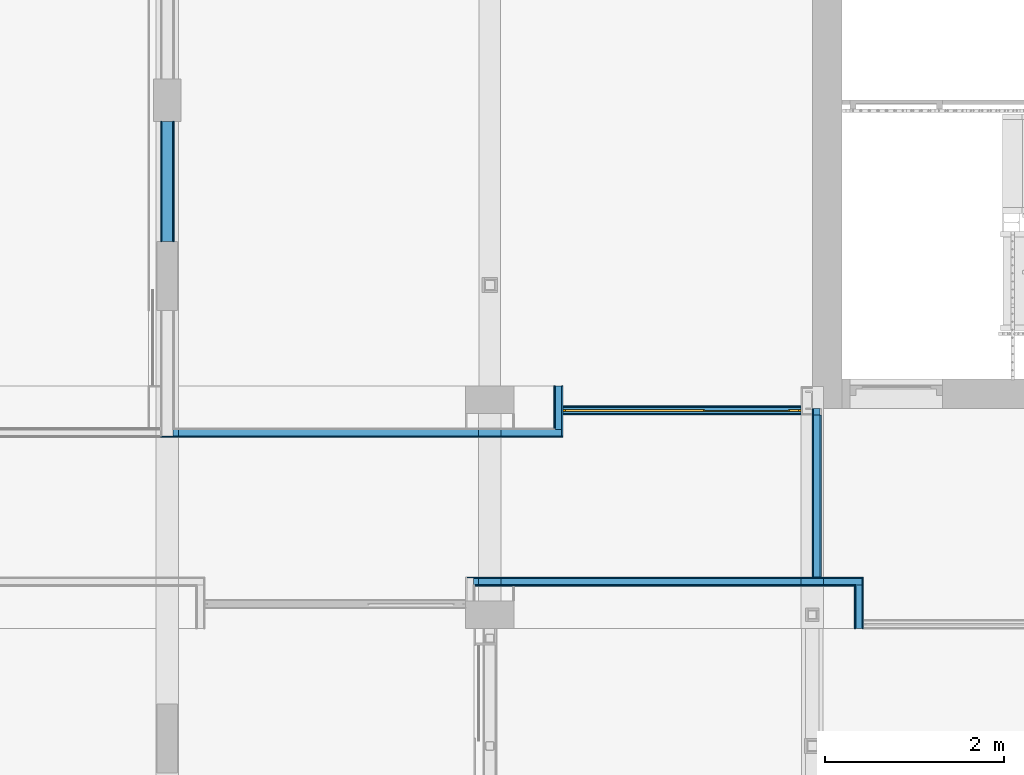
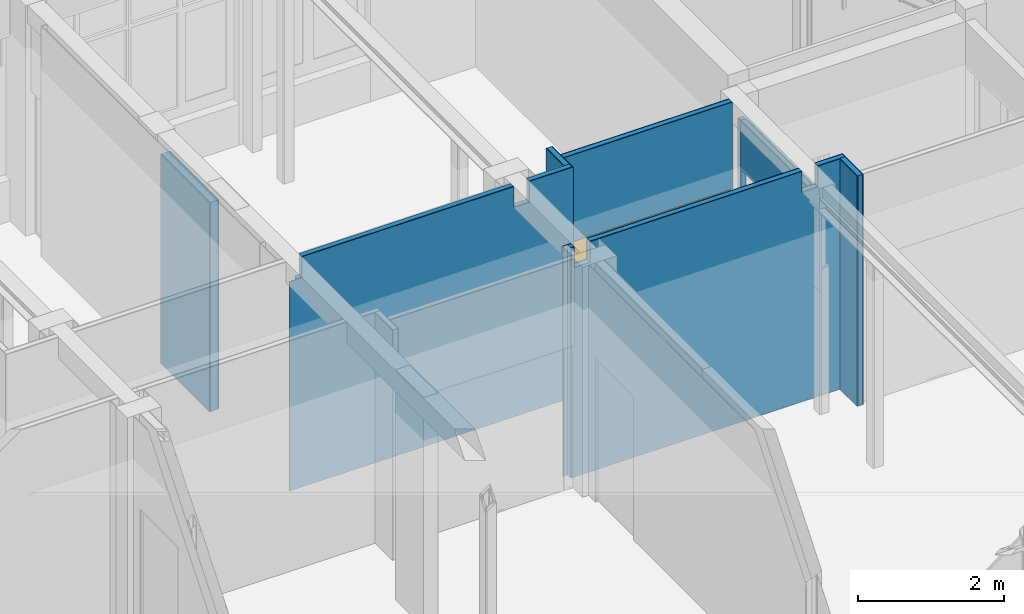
# One storey, part 111 of 135: 22 building element parts, 1 door, 1 opening, 8 elements without a shape of their own.
"""IFC2X3 building model written with IfcOpenShell, lengths in millimetres."""

from ifc_helpers import new_model, entity, si_unit, converted_unit, derived_unit, money_unit, direction, frame, origin_with_axes, place, context, subcontext, project, spatial, open_shell, faceted_brep, surface_model, material, type_object, element, fill, aggregate, save


model = new_model("IFC2X3")

# Units and contexts
model_context = context("Model", 3, precision=0.01, world=origin_with_axes(), true_north=direction((0.0, 1.0)))
body_context = subcontext(model_context, "Body", "Model", "MODEL_VIEW")
ifc_project = project(units=[si_unit("LENGTHUNIT", "METRE", prefix="MILLI"), si_unit("AREAUNIT", "SQUARE_METRE"), si_unit("VOLUMEUNIT", "CUBIC_METRE"), converted_unit("PLANEANGLEUNIT", "DEGREE", entity("IfcPlaneAngleMeasure", 0.0174532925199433), si_unit("PLANEANGLEUNIT", "RADIAN"), dimensions=[0, 0, 0, 0, 0, 0, 0]), money_unit("EUR"), converted_unit("TIMEUNIT", "Year", entity("IfcTimeMeasure", 31557600.0), si_unit("TIMEUNIT", "SECOND"), dimensions=[0, 0, 1, 0, 0, 0, 0]), si_unit("MASSUNIT", "GRAM", prefix="KILO"), si_unit("THERMODYNAMICTEMPERATUREUNIT", "DEGREE_CELSIUS"), si_unit("LUMINOUSINTENSITYUNIT", "LUMEN"), si_unit("ENERGYUNIT", "JOULE", prefix="MEGA"), derived_unit("THERMALCONDUCTANCEUNIT", [(si_unit("POWERUNIT", "WATT"), 1), (si_unit("LENGTHUNIT", "METRE"), -1), (si_unit("THERMODYNAMICTEMPERATUREUNIT", "KELVIN"), -1)]), derived_unit("SPECIFICHEATCAPACITYUNIT", [(si_unit("ENERGYUNIT", "JOULE"), 1), (si_unit("MASSUNIT", "GRAM", prefix="KILO"), -1), (si_unit("THERMODYNAMICTEMPERATUREUNIT", "KELVIN"), -1)]), derived_unit("MASSDENSITYUNIT", [(si_unit("MASSUNIT", "GRAM", prefix="KILO"), 1), (si_unit("VOLUMEUNIT", "CUBIC_METRE"), -1)])], contexts=[model_context])

# Site, building, storey
site_placement = place(None, origin_with_axes())
site = spatial("IfcSite", under=ifc_project, at=site_placement, Name="Site", CompositionType="ELEMENT")
building_placement = place(site_placement, origin_with_axes())
building = spatial("IfcBuilding", under=site, at=building_placement, Name="Naam gebouw", CompositionType="ELEMENT")
storey_placement = place(building_placement, origin_with_axes())
storey = spatial("IfcBuildingStorey", under=building, at=storey_placement, Name="Begane grond N", CompositionType="ELEMENT", Elevation=0.0)

# Door
door_style = type_object("IfcDoorStyle", Name="D1 zl2 27", ConstructionType="NOTDEFINED", OperationType="USERDEFINED", ParameterTakesPrecedence=False, Sizeable=False)
wall_2_placement = place(storey_placement, frame((51215.00000000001, 20305.91242510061, 0.0), z_axis=(0.0, 0.0, 1.0), x_axis=(1.0, 0.0, 0.0)))
opening_placement = place(wall_2_placement, frame((1329.999999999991, 0.0, 0.0), z_axis=(0.0, 0.0, 1.0), x_axis=(1.0, 0.0, 0.0)))
door_placement = place(opening_placement, frame((-1329.999999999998, 0.0, 0.0), z_axis=(0.0, 0.0, 1.0), x_axis=(1.0, 0.0, 0.0)))
door = element("IfcDoor", 1, at=door_placement, inside=storey, type_object=door_style, Name="_Merk-x", ObjectType="DOOR", OverallHeight=2400.0, OverallWidth=2660.0, context=body_context, shape_type="SurfaceModel", body=[
    faceted_brep([(0.0, 9.99999999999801, 0.0), (30.00000000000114, 9.99999999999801, 0.0), (30.00000000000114, -10.00000000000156, 0.0), (0.0, -10.00000000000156, 0.0), (0.0, 9.99999999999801, 2370.0), (30.00000000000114, 9.99999999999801, 2370.0), (30.00000000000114, 9.99999999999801, 30.0), (30.00000000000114, -10.00000000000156, 30.0), (30.00000000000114, -10.00000000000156, 2370.0), (0.0, -10.00000000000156, 2370.0)], [[[0, 1, 2, 3]], [[0, 4, 5, 6, 1]], [[1, 6, 7, 2]], [[3, 2, 7, 8, 9]], [[4, 0, 3, 9]], [[5, 4, 9, 8]], [[6, 5, 8, 7]]]),
    faceted_brep([(1599.999999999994, -9.000000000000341, 0.0), (1599.999999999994, -9.000000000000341, 2370.0), (1599.999999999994, -10.00000000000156, 2370.0), (1599.999999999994, -10.00000000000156, 0.0), (1582.999999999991, -9.000000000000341, 2370.0), (1582.999999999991, -9.000000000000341, 0.0), (1582.999999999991, 9.99999999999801, 2370.0), (1569.999999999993, 9.99999999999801, 2370.0), (1569.999999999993, -10.00000000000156, 2370.0), (1569.999999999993, -10.00000000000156, 0.0), (1569.999999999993, -10.00000000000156, 30.00000000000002), (1569.999999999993, 9.99999999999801, 0.0), (1582.999999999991, 9.99999999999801, 0.0), (1569.999999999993, 9.99999999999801, 30.00000000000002)], [[[0, 1, 2, 3]], [[4, 1, 0, 5]], [[4, 6, 7, 8, 2, 1]], [[9, 3, 2, 8, 10]], [[5, 0, 3, 9, 11, 12]], [[6, 4, 5, 12]], [[6, 12, 11, 13, 7]], [[13, 10, 8, 7]], [[11, 9, 10, 13]]]),
    faceted_brep([(30.00000000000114, 9.99999999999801, 30.0), (30.00000000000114, 9.99999999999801, 0.0), (30.00000000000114, -10.00000000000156, 0.0), (30.00000000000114, -10.00000000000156, 30.0), (1569.999999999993, 9.99999999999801, 30.0), (1569.999999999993, 9.99999999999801, 0.0), (1569.999999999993, -10.00000000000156, 0.0), (1569.999999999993, -10.00000000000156, 30.0)], [[[0, 1, 2, 3]], [[0, 4, 5, 1]], [[1, 5, 6, 2]], [[3, 2, 6, 7]], [[4, 0, 3, 7]], [[5, 4, 7, 6]]]),
    faceted_brep([(2659.999999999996, 9.99999999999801, 0.0), (2659.999999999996, 9.99999999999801, 2370.0), (2659.999999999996, -10.00000000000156, 2370.0), (2659.999999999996, -10.00000000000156, 0.0), (2629.999999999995, 9.99999999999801, 0.0), (2629.999999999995, 9.99999999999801, 30.0), (2629.999999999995, 9.99999999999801, 2370.0), (2629.999999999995, -10.00000000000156, 2370.0), (2629.999999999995, -10.00000000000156, 30.0), (2629.999999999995, -10.00000000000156, 0.0)], [[[0, 1, 2, 3]], [[0, 4, 5, 6, 1]], [[1, 6, 7, 2]], [[3, 2, 7, 8, 9]], [[4, 0, 3, 9]], [[5, 4, 9, 8]], [[6, 5, 8, 7]]]),
    faceted_brep([(2516.999999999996, -9.000000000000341, 2370.0), (2499.999999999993, -9.000000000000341, 2370.0), (2499.999999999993, -10.00000000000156, 2370.0), (2529.999999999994, -10.00000000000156, 2370.0), (2529.999999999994, 9.99999999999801, 2370.0), (2516.999999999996, 9.99999999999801, 2370.0), (2516.999999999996, -9.000000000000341, 0.0), (2499.999999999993, -9.000000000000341, 0.0), (2499.999999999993, -10.00000000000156, 0.0), (2529.999999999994, -10.00000000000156, 0.0), (2529.999999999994, -10.00000000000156, 30.00000000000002), (2529.999999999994, 9.99999999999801, 30.00000000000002), (2516.999999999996, 9.99999999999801, 0.0), (2529.999999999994, 9.99999999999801, 0.0)], [[[0, 1, 2, 3, 4, 5]], [[1, 0, 6, 7]], [[1, 7, 8, 2]], [[8, 9, 10, 3, 2]], [[4, 3, 10, 11]], [[12, 5, 4, 11, 13]], [[0, 5, 12, 6]], [[6, 12, 13, 9, 8, 7]], [[11, 10, 9, 13]]]),
    faceted_brep([(2529.999999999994, 9.99999999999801, 30.0), (2529.999999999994, 9.99999999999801, 0.0), (2529.999999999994, -10.00000000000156, 0.0), (2529.999999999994, -10.00000000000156, 30.0), (2629.999999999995, 9.99999999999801, 30.0), (2629.999999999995, 9.99999999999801, 0.0), (2629.999999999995, -10.00000000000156, 0.0), (2629.999999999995, -10.00000000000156, 30.0)], [[[0, 1, 2, 3]], [[0, 4, 5, 1]], [[1, 5, 6, 2]], [[3, 2, 6, 7]], [[4, 0, 3, 7]], [[5, 4, 7, 6]]]),
    faceted_brep([(1582.999999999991, 9.99999999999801, 2387.0), (1582.999999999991, 9.99999999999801, 2370.0), (1569.999999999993, 9.99999999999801, 2370.0), (30.00000000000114, 9.99999999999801, 2370.0), (0.0, 9.99999999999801, 2370.0), (0.0, 9.99999999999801, 2400.0), (2659.999999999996, 9.99999999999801, 2400.0), (2659.999999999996, 9.99999999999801, 2370.0), (2629.999999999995, 9.99999999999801, 2370.0), (2529.999999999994, 9.99999999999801, 2370.0), (2516.999999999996, 9.99999999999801, 2370.0), (2516.999999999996, 9.99999999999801, 2387.0), (1582.999999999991, -9.000000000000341, 2387.0), (1582.999999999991, -9.000000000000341, 2370.0), (2499.999999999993, -9.000000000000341, 2370.0), (2499.999999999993, -10.00000000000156, 2370.0), (1599.999999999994, -10.00000000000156, 2370.0), (1569.999999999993, -10.00000000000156, 2370.0), (30.00000000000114, -10.00000000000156, 2370.0), (0.0, -10.00000000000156, 2370.0), (0.0, -10.00000000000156, 2400.0), (2659.999999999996, -10.00000000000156, 2400.0), (2659.999999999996, -10.00000000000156, 2370.0), (2629.999999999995, -10.00000000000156, 2370.0), (2516.999999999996, -9.000000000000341, 2370.0), (2529.999999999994, -10.00000000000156, 2370.0), (2516.999999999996, -9.000000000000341, 2387.0)], [[[0, 1, 2, 3, 4, 5, 6, 7, 8, 9, 10, 11]], [[1, 0, 12, 13]], [[13, 14, 15, 16, 17, 2, 1]], [[2, 17, 18, 3]], [[3, 18, 19, 4]], [[4, 19, 20, 5]], [[5, 20, 21, 6]], [[6, 21, 22, 7]], [[7, 22, 23, 8]], [[24, 10, 9, 8, 23, 25, 15, 14]], [[11, 10, 24, 26]], [[0, 11, 26, 12]], [[24, 14, 13, 12, 26]], [[23, 22, 21, 20, 19, 18, 17, 16, 15, 25]]]),
    faceted_brep([(2516.999999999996, 0.9999999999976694, 0.0), (2516.999999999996, -9.000000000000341, 0.0), (1582.999999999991, -9.000000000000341, 0.0), (1582.999999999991, 0.9999999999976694, 0.0), (2516.999999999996, 0.9999999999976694, 2387.0), (2516.999999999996, -9.000000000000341, 2387.0), (1582.999999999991, -9.000000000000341, 2387.0), (1582.999999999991, 0.9999999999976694, 2387.0)], [[[0, 1, 2, 3]], [[4, 5, 1, 0]], [[1, 5, 6, 2]], [[3, 2, 6, 7]], [[0, 3, 7, 4]], [[7, 6, 5, 4]]]),
    surface_model("IfcShellBasedSurfaceModel", [(30.00000000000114, 8.999999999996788, 30.0), (30.00000000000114, 8.999999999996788, 2370.0), (1569.999999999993, 8.999999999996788, 2370.0), (1569.999999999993, 8.999999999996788, 30.0)], [open_shell([[[0, 1, 2, 3]]])]),
    surface_model("IfcShellBasedSurfaceModel", [(30.00000000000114, 0.9999999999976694, 30.0), (1569.999999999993, 0.9999999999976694, 30.0), (1569.999999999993, 0.9999999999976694, 2370.0), (30.00000000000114, 0.9999999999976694, 2370.0)], [open_shell([[[0, 1, 2, 3]]])]),
    surface_model("IfcShellBasedSurfaceModel", [(2529.999999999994, 8.999999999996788, 30.0), (2529.999999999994, 8.999999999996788, 2370.0), (2629.999999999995, 8.999999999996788, 2370.0), (2629.999999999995, 8.999999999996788, 30.0)], [open_shell([[[0, 1, 2, 3]]])]),
    surface_model("IfcShellBasedSurfaceModel", [(2529.999999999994, 0.9999999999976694, 30.0), (2629.999999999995, 0.9999999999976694, 30.0), (2629.999999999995, 0.9999999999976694, 2370.0), (2529.999999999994, 0.9999999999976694, 2370.0)], [open_shell([[[0, 1, 2, 3]]])]),
])

# Wall, building element parts
wall_type_1 = type_object("IfcWallType", Name="Metalstud iso 100 100", PredefinedType="NOTDEFINED")
wall_1_placement = place(storey_placement, frame((51115.00000000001, 20580.91242510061, 0.0), z_axis=(0.0, 0.0, 1.0), x_axis=(0.0, -1.0, 0.0)))
wall_1 = element("IfcWall", 2, at=wall_1_placement, inside=storey, type_object=wall_type_1, Name="_Wand-x")
ifc_material_1 = material(Name="Gipsplaat")
building_element_part_1_placement = place(wall_1_placement, origin_with_axes())
building_element_part_1 = element("IfcBuildingElementPart", 3, at=building_element_part_1_placement, material=ifc_material_1, Name="Gipsplaat", context=body_context, shape_type="Brep", body=[
    faceted_brep([(0.0, 87.49999999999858, 3850.0), (0.0, 100.0000000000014, 3850.0), (0.0, 100.0000000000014, 0.0), (0.0, 87.49999999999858, 0.0), (562.499999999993, 100.0000000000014, 3850.0), (562.499999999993, 87.49999999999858, 3850.0), (562.499999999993, 100.0000000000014, 0.0), (562.499999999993, 87.49999999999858, 0.0)], [[[0, 1, 2, 3]], [[4, 1, 0, 5]], [[1, 4, 6, 2]], [[6, 7, 3, 2]], [[5, 0, 3, 7]], [[4, 5, 7, 6]]]),
])
ifc_material_2 = material(Name="Isolatie - Steenwol LSW")
building_element_part_2_placement = place(wall_1_placement, origin_with_axes())
building_element_part_2 = element("IfcBuildingElementPart", 4, at=building_element_part_2_placement, material=ifc_material_2, Name="Isolatie - Steenwol LSW", context=body_context, shape_type="Brep", body=[
    faceted_brep([(0.0, 12.50000000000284, 3850.0), (0.0, 87.49999999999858, 3850.0), (0.0, 87.49999999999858, 0.0), (0.0, 12.50000000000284, 0.0), (487.4999999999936, 87.49999999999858, 3850.0), (487.4999999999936, 12.50000000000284, 3850.0), (487.4999999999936, 87.49999999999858, 0.0), (487.4999999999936, 12.50000000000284, 0.0)], [[[0, 1, 2, 3]], [[4, 1, 0, 5]], [[1, 4, 6, 2]], [[6, 7, 3, 2]], [[5, 0, 3, 7]], [[4, 5, 7, 6]]]),
])
building_element_part_3_placement = place(wall_1_placement, origin_with_axes())
building_element_part_3 = element("IfcBuildingElementPart", 5, at=building_element_part_3_placement, material=ifc_material_1, Name="Gipsplaat", context=body_context, shape_type="Brep", body=[
    faceted_brep([(0.0, 0.0, 3850.0), (0.0, 12.50000000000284, 3850.0), (0.0, 12.50000000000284, 0.0), (0.0, 0.0, 0.0), (474.9999999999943, 12.50000000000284, 3850.0), (474.9999999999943, 0.0, 3850.0), (474.9999999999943, 12.50000000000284, 0.0), (474.9999999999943, 0.0, 0.0)], [[[0, 1, 2, 3]], [[4, 1, 0, 5]], [[1, 4, 6, 2]], [[6, 7, 3, 2]], [[5, 0, 3, 7]], [[4, 5, 7, 6]]]),
])
aggregate(wall_1, [building_element_part_1, building_element_part_2, building_element_part_3])

# Wall, opening
wall_2 = element("IfcWall", 6, at=wall_2_placement, inside=storey, type_object=wall_type_1, Name="_Wand-x")
opening = element("IfcOpeningElement", 7, at=opening_placement, cuts=wall_2, Name="_Merk-x", context=body_context, shape_type="Brep", body=[
    faceted_brep([(-1329.999999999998, 9.99999999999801, 0.0), (-1329.999999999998, 9.99999999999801, 2400.0), (-1329.999999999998, 51.00000000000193, 2400.0), (-1329.999999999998, 51.00000000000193, 0.0), (-1329.999999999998, -51.00000000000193, 0.0), (-1329.999999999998, -51.00000000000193, 2400.0), (1329.999999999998, 9.99999999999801, 2400.0), (1329.999999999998, 51.00000000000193, 2400.0), (1329.999999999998, -51.00000000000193, 2400.0), (1329.999999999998, 51.00000000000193, 0.0), (1329.999999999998, 9.99999999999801, 0.0), (1329.999999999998, -51.00000000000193, 0.0)], [[[0, 1, 2, 3]], [[1, 0, 4, 5]], [[6, 7, 2, 1, 5, 8]], [[7, 9, 3, 2]], [[0, 3, 9, 10, 11, 4]], [[5, 4, 11, 8]], [[6, 10, 9, 7]], [[10, 6, 8, 11]]]),
])

fill(opening, door)

# Building element part
building_element_part_4_placement = place(wall_2_placement, origin_with_axes())
building_element_part_4 = element("IfcBuildingElementPart", 8, at=building_element_part_4_placement, material=ifc_material_2, Name="Isolatie - Steenwol LSW", context=body_context, shape_type="Brep", body=[
    faceted_brep([(2659.99999999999, -37.49999999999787, 2400.0), (2659.99999999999, 9.99999999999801, 2400.0), (2659.99999999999, 37.50000000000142, 2400.0), (2659.99999999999, 37.50000000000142, 3850.0), (2659.99999999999, -37.49999999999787, 3850.0), (0.0, -37.50000000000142, 2400.0), (0.0, 9.99999999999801, 2400.0), (0.0, 37.50000000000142, 2400.0), (0.0, 37.50000000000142, 3850.0), (0.0, -37.50000000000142, 3850.0)], [[[0, 1, 2, 3, 4]], [[1, 0, 5, 6, 7, 2]], [[7, 8, 3, 2]], [[8, 9, 4, 3]], [[5, 0, 4, 9]], [[6, 5, 9, 8, 7]]]),
])

building_element_part_5_placement = place(wall_2_placement, origin_with_axes())
building_element_part_5 = element("IfcBuildingElementPart", 9, at=building_element_part_5_placement, material=ifc_material_1, Name="Gipsplaat", context=body_context, shape_type="Brep", body=[
    faceted_brep([(2659.99999999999, -50.00000000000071, 2400.0), (2659.99999999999, -37.49999999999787, 2400.0), (2659.99999999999, -37.49999999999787, 3850.0), (2659.99999999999, -50.00000000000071, 3850.0), (0.0, -37.50000000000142, 2400.0), (0.0, -50.00000000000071, 2400.0), (0.0, -37.50000000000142, 3850.0), (0.0, -50.00000000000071, 3850.0)], [[[0, 1, 2, 3]], [[4, 1, 0, 5]], [[1, 4, 6, 2]], [[2, 6, 7, 3]], [[5, 0, 3, 7]], [[4, 5, 7, 6]]]),
])

building_element_part_6_placement = place(wall_2_placement, origin_with_axes())
building_element_part_6 = element("IfcBuildingElementPart", 10, at=building_element_part_6_placement, material=ifc_material_1, Name="Gipsplaat", context=body_context, shape_type="Brep", body=[
    faceted_brep([(2659.99999999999, 37.50000000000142, 2400.0), (2659.99999999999, 50.00000000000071, 2400.0), (2659.99999999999, 50.00000000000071, 3850.0), (2659.99999999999, 37.50000000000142, 3850.0), (0.0, 50.00000000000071, 2400.0), (0.0, 37.50000000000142, 2400.0), (0.0, 50.00000000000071, 3850.0), (0.0, 37.50000000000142, 3850.0)], [[[0, 1, 2, 3]], [[4, 1, 0, 5]], [[1, 4, 6, 2]], [[2, 6, 7, 3]], [[5, 0, 3, 7]], [[4, 5, 7, 6]]]),
])

aggregate(wall_2, [building_element_part_4, building_element_part_5, building_element_part_6])

# Wall, building element parts
wall_3_placement = place(storey_placement, frame((46800.00000000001, 20105.91242510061, 0.0), z_axis=(0.0, 0.0, 1.0), x_axis=(1.0, 0.0, 0.0)))
wall_3 = element("IfcWall", 11, at=wall_3_placement, inside=storey, type_object=wall_type_1, Name="_Wand-x")
building_element_part_7_placement = place(wall_3_placement, origin_with_axes())
building_element_part_7 = element("IfcBuildingElementPart", 12, at=building_element_part_7_placement, material=ifc_material_2, Name="Isolatie - Steenwol LSW", context=body_context, shape_type="Brep", body=[
    faceted_brep([(3474.999999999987, -12.49999999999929, 3499.999996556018), (3724.999999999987, -12.49999999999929, 3499.999996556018), (3724.999999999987, -12.49999999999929, 3850.0), (4402.500000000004, -12.49999999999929, 3850.0), (4402.500000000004, -12.49999999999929, 0.0), (62.5, -12.49999999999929, 0.0), (62.5, -12.49999999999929, 3500.0), (124.9999999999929, -12.49999999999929, 3500.0), (124.9999999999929, -12.49999999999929, 3850.000195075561), (3474.999999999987, -12.49999999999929, 3850.0), (3474.999999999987, -87.49999999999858, 3499.999996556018), (3724.999999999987, -87.49999999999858, 3499.999996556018), (3724.999999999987, -87.49999999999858, 3850.0), (4402.500000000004, -87.49999999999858, 3850.0), (4402.500000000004, -87.49999999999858, 0.0), (62.5, -87.49999999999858, 0.0), (62.5, -87.49999999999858, 3500.0), (124.9999999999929, -87.49999999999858, 3500.0), (124.9999999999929, -87.49999999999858, 3850.000195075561), (3474.999999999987, -87.49999999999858, 3850.0)], [[[0, 1, 2, 3, 4, 5, 6, 7, 8, 9]], [[1, 0, 10, 11]], [[12, 2, 1, 11]], [[2, 12, 13, 3]], [[4, 3, 13, 14]], [[5, 4, 14, 15]], [[16, 6, 5, 15]], [[7, 6, 16, 17]], [[18, 8, 7, 17]], [[19, 9, 8, 18]], [[0, 9, 19, 10]], [[10, 19, 18, 17, 16, 15, 14, 13, 12, 11]]]),
])
building_element_part_8_placement = place(wall_3_placement, origin_with_axes())
building_element_part_8 = element("IfcBuildingElementPart", 13, at=building_element_part_8_placement, material=ifc_material_1, Name="Gipsplaat", context=body_context, shape_type="Brep", body=[
    faceted_brep([(3474.999999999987, -87.49999999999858, 3499.999996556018), (3724.999999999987, -87.49999999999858, 3499.999996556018), (3724.999999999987, -87.49999999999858, 3850.0), (4415.000000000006, -87.49999999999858, 3850.0), (4415.000000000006, -87.49999999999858, 0.0), (-75.00000000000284, -87.49999999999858, 0.0), (-75.00000000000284, -87.49999999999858, 3500.0), (124.9999999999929, -87.49999999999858, 3500.0), (124.9999999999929, -87.49999999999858, 3850.000195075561), (3474.999999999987, -87.49999999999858, 3850.0), (3474.999999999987, -99.99999999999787, 3499.999996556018), (3724.999999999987, -99.99999999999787, 3499.999996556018), (3724.999999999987, -99.99999999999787, 3850.0), (4415.000000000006, -99.99999999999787, 3850.0), (4415.000000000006, -100.0000000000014, 0.0), (-75.00000000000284, -100.0000000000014, 0.0), (-75.00000000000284, -100.0000000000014, 3500.0), (124.9999999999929, -99.99999999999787, 3500.0), (124.9999999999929, -100.0000000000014, 3850.000195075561), (3474.999999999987, -99.99999999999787, 3850.0)], [[[0, 1, 2, 3, 4, 5, 6, 7, 8, 9]], [[1, 0, 10, 11]], [[12, 2, 1, 11]], [[2, 12, 13, 3]], [[4, 3, 13, 14]], [[5, 4, 14, 15]], [[16, 6, 5, 15]], [[7, 6, 16, 17]], [[18, 8, 7, 17]], [[19, 9, 8, 18]], [[0, 9, 19, 10]], [[10, 19, 18, 17, 16, 15, 14, 13, 12, 11]]]),
])
aggregate(wall_3, [building_element_part_7, building_element_part_8])

wall_4_placement = place(storey_placement, frame((54100.0, 20255.91242510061, 0.0), z_axis=(0.0, 0.0, 1.0), x_axis=(0.0, 1.0, 0.0)))
wall_4 = element("IfcWall", 14, at=wall_4_placement, inside=storey, type_object=wall_type_1, Name="_Wand-x")
building_element_part_9_placement = place(wall_4_placement, origin_with_axes())
building_element_part_9 = element("IfcBuildingElementPart", 15, at=building_element_part_9_placement, material=ifc_material_1, Name="Gipsplaat", context=body_context, shape_type="Brep", body=[
    faceted_brep([(69.99999999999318, 100.0000000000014, 3499.999993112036), (69.99999999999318, 87.49999999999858, 3499.999993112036), (69.99999999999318, 87.49999999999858, 0.0), (69.99999999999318, 100.0000000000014, 0.0), (0.0, 87.49999999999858, 3499.999993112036), (0.0, 99.99999870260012, 3499.999993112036), (0.0, 87.49999999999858, 0.0), (0.0, 100.0000000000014, 0.0), (0.0, 99.99999870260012, 2690.0)], [[[0, 1, 2, 3]], [[4, 1, 0, 5]], [[1, 4, 6, 2]], [[7, 3, 2, 6]], [[5, 0, 3, 7, 8]], [[4, 5, 8, 7, 6]]]),
])
building_element_part_10_placement = place(wall_4_placement, origin_with_axes())
building_element_part_10 = element("IfcBuildingElementPart", 16, at=building_element_part_10_placement, material=ifc_material_2, Name="Isolatie - Steenwol LSW", context=body_context, shape_type="Brep", body=[
    faceted_brep([(69.99999999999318, 87.49999999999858, 3499.999993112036), (69.99999999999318, 12.50000000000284, 3499.999993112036), (69.99999999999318, 12.50000000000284, 0.0), (69.99999999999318, 87.49999999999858, 0.0), (0.0, 12.50000000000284, 3499.999993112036), (0.0, 87.49999999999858, 3499.999993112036), (0.0, 12.50000000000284, 0.0), (0.0, 87.49999999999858, 0.0)], [[[0, 1, 2, 3]], [[4, 1, 0, 5]], [[1, 4, 6, 2]], [[3, 2, 6, 7]], [[5, 0, 3, 7]], [[4, 5, 7, 6]]]),
])
aggregate(wall_4, [building_element_part_9, building_element_part_10])

wall_5_placement = place(storey_placement, frame((54469.99999999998, 17870.91242510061, 0.0), z_axis=(0.0, 0.0, 1.0), x_axis=(0.0, 1.0, 0.0)))
wall_5 = element("IfcWall", 17, at=wall_5_placement, inside=storey, type_object=wall_type_1, Name="_Wand-x")
building_element_part_11_placement = place(wall_5_placement, origin_with_axes())
building_element_part_11 = element("IfcBuildingElementPart", 18, at=building_element_part_11_placement, material=ifc_material_1, Name="Gipsplaat", context=body_context, shape_type="Brep", body=[
    faceted_brep([(474.9999999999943, 0.0, 3850.0), (474.9999999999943, -12.50000000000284, 3850.0), (474.9999999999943, -12.50000000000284, 0.0), (474.9999999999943, 0.0, 0.0), (0.0, -12.50000000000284, 3850.0), (0.0, 0.0, 3850.0), (0.0, -12.50000000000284, 0.0), (0.0, 0.0, 0.0)], [[[0, 1, 2, 3]], [[4, 1, 0, 5]], [[1, 4, 6, 2]], [[3, 2, 6, 7]], [[5, 0, 3, 7]], [[4, 5, 7, 6]]]),
])
building_element_part_12_placement = place(wall_5_placement, origin_with_axes())
building_element_part_12 = element("IfcBuildingElementPart", 19, at=building_element_part_12_placement, material=ifc_material_2, Name="Isolatie - Steenwol LSW", context=body_context, shape_type="Brep", body=[
    faceted_brep([(487.4999999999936, -12.50000000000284, 3850.0), (487.4999999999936, -87.49999999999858, 3850.0), (487.4999999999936, -87.49999999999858, 0.0), (487.4999999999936, -12.50000000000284, 0.0), (0.0, -87.49999999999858, 3850.0), (0.0, -12.50000000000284, 3850.0), (0.0, -87.49999999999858, 0.0), (0.0, -12.50000000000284, 0.0)], [[[0, 1, 2, 3]], [[4, 1, 0, 5]], [[1, 4, 6, 2]], [[3, 2, 6, 7]], [[5, 0, 3, 7]], [[4, 5, 7, 6]]]),
])

wall_6_placement = place(storey_placement, frame((50229.99999999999, 18345.9124251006, 0.0), z_axis=(0.0, 0.0, 1.0), x_axis=(1.0, 0.0, 0.0)))
wall_6 = element("IfcWall", 20, at=wall_6_placement, inside=storey, type_object=wall_type_1, Name="_Wand-x")
building_element_part_13_placement = place(wall_6_placement, origin_with_axes())
building_element_part_13 = element("IfcBuildingElementPart", 21, at=building_element_part_13_placement, material=ifc_material_2, Name="Isolatie - Steenwol LSW", context=body_context, shape_type="Brep", body=[
    faceted_brep([(3645.00000000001, 87.49999999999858, 3499.999993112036), (3895.00000000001, 87.49999999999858, 3499.999993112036), (3895.00000000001, 87.50000000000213, 3850.0), (4327.499999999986, 87.50000000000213, 3850.0), (4327.499999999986, 87.49999999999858, 0.0), (-12.50000000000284, 87.49999999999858, 0.0), (-12.50000000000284, 87.49999999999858, 3850.0), (45.00000000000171, 87.49999999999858, 3850.0), (45.00000000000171, 87.49999999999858, 3499.999996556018), (295.0000000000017, 87.49999999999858, 3499.999996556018), (295.0000000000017, 87.49999999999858, 3850.0), (3645.00000000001, 87.50000000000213, 3850.0), (3645.00000000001, 12.49999999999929, 3499.999993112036), (3895.00000000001, 12.49999999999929, 3499.999993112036), (3895.00000000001, 12.49999999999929, 3850.0), (4327.499999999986, 12.49999999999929, 3850.0), (4327.499999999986, 12.49999999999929, 0.0), (-12.50000000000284, 12.49999999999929, 0.0), (-12.50000000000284, 12.49999999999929, 3850.0), (45.00000000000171, 12.49999999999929, 3850.0), (45.00000000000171, 12.49999999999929, 3499.999996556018), (295.0000000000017, 12.49999999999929, 3499.999996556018), (295.0000000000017, 12.49999999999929, 3850.0), (3645.00000000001, 12.49999999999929, 3850.0)], [[[0, 1, 2, 3, 4, 5, 6, 7, 8, 9, 10, 11]], [[1, 0, 12, 13]], [[14, 2, 1, 13]], [[2, 14, 15, 3]], [[4, 3, 15, 16]], [[5, 4, 16, 17]], [[17, 18, 6, 5]], [[19, 7, 6, 18]], [[8, 7, 19, 20]], [[9, 8, 20, 21]], [[22, 10, 9, 21]], [[23, 11, 10, 22]], [[0, 11, 23, 12]], [[12, 23, 22, 21, 20, 19, 18, 17, 16, 15, 14, 13]]]),
])
building_element_part_14_placement = place(wall_6_placement, origin_with_axes())
building_element_part_14 = element("IfcBuildingElementPart", 22, at=building_element_part_14_placement, material=ifc_material_1, Name="Gipsplaat", context=body_context, shape_type="Brep", body=[
    faceted_brep([(3645.00000000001, 12.49999999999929, 3499.999993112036), (3895.00000000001, 12.49999999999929, 3499.999993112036), (3895.00000000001, 12.49999999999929, 3850.0), (4252.499999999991, 12.49999999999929, 3850.0), (4252.499999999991, 12.49999999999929, 0.0), (0.0, 12.49999999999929, 0.0), (0.0, 12.49999999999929, 3850.0), (45.00000000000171, 12.49999999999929, 3850.0), (45.00000000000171, 12.49999999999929, 3499.999996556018), (295.0000000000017, 12.49999999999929, 3499.999996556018), (295.0000000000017, 12.49999999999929, 3850.0), (3645.00000000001, 12.49999999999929, 3850.0), (3645.00000000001, 0.0, 3499.999993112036), (3895.00000000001, 0.0, 3499.999993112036), (3895.00000000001, 0.0, 3850.0), (4252.499999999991, 0.0, 3850.0), (4252.499999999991, 0.0, 0.0), (0.0, 0.0, 0.0), (0.0, 0.0, 3850.0), (45.00000000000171, 0.0, 3850.0), (45.00000000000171, 0.0, 3499.999996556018), (295.0000000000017, 0.0, 3499.999996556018), (295.0000000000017, 0.0, 3850.0), (3645.00000000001, 0.0, 3850.0)], [[[0, 1, 2, 3, 4, 5, 6, 7, 8, 9, 10, 11]], [[1, 0, 12, 13]], [[14, 2, 1, 13]], [[2, 14, 15, 3]], [[4, 3, 15, 16]], [[5, 4, 16, 17]], [[17, 18, 6, 5]], [[19, 7, 6, 18]], [[8, 7, 19, 20]], [[9, 8, 20, 21]], [[22, 10, 9, 21]], [[23, 11, 10, 22]], [[0, 11, 23, 12]], [[12, 23, 22, 21, 20, 19, 18, 17, 16, 15, 14, 13]]]),
])

# Building element part
building_element_part_15_placement = place(wall_5_placement, origin_with_axes())
building_element_part_15 = element("IfcBuildingElementPart", 23, at=building_element_part_15_placement, material=ifc_material_1, Name="Gipsplaat", context=body_context, shape_type="Brep", body=[
    faceted_brep([(562.499999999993, -87.49999999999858, 3850.0), (562.499999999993, -100.0000000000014, 3850.0), (562.499999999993, -100.0000000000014, 0.0), (562.499999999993, -87.49999999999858, 0.0), (0.0, -100.0000000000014, 3850.0), (0.0, -87.49999999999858, 3850.0), (0.0, -100.0000000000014, 0.0), (0.0, -87.49999999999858, 0.0)], [[[0, 1, 2, 3]], [[4, 1, 0, 5]], [[1, 4, 6, 2]], [[3, 2, 6, 7]], [[5, 0, 3, 7]], [[4, 5, 7, 6]]]),
])

aggregate(wall_5, [building_element_part_11, building_element_part_12, building_element_part_15])

building_element_part_16_placement = place(wall_6_placement, origin_with_axes())
building_element_part_16 = element("IfcBuildingElementPart", 24, at=building_element_part_16_placement, material=ifc_material_1, Name="Gipsplaat", context=body_context, shape_type="Brep", body=[
    faceted_brep([(3645.00000000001, 100.0000000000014, 3499.999993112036), (3895.00000000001, 100.0000000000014, 3499.999993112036), (3895.00000000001, 100.0000000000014, 3850.0), (4339.999999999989, 100.0000000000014, 3850.0), (4339.999999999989, 100.0000000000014, 0.0), (-87.49999999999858, 100.0000000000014, 0.0), (-87.49999999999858, 100.0000000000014, 3850.0), (45.00000000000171, 100.0000000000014, 3850.0), (45.00000000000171, 100.0000000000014, 3499.999996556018), (295.0000000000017, 100.0000000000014, 3499.999996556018), (295.0000000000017, 100.0000000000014, 3850.0), (3645.00000000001, 100.0000000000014, 3850.0), (3645.00000000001, 87.50000000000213, 3499.999993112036), (3895.00000000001, 87.50000000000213, 3499.999993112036), (3895.00000000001, 87.50000000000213, 3850.0), (4339.999999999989, 87.50000000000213, 3850.0), (4339.999999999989, 87.49999999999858, 0.0), (-87.49999999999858, 87.49999999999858, 0.0), (-87.49999999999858, 87.49999999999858, 3850.0), (45.00000000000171, 87.49999999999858, 3850.0), (45.00000000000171, 87.50000000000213, 3499.999996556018), (295.0000000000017, 87.50000000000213, 3499.999996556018), (295.0000000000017, 87.49999999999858, 3850.0), (3645.00000000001, 87.50000000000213, 3850.0)], [[[0, 1, 2, 3, 4, 5, 6, 7, 8, 9, 10, 11]], [[1, 0, 12, 13]], [[14, 2, 1, 13]], [[2, 14, 15, 3]], [[4, 3, 15, 16]], [[5, 4, 16, 17]], [[17, 18, 6, 5]], [[19, 7, 6, 18]], [[8, 7, 19, 20]], [[9, 8, 20, 21]], [[22, 10, 9, 21]], [[23, 11, 10, 22]], [[0, 11, 23, 12]], [[12, 23, 22, 21, 20, 19, 18, 17, 16, 15, 14, 13]]]),
])

aggregate(wall_6, [building_element_part_13, building_element_part_14, building_element_part_16])

# Wall, building element parts
wall_7_placement = place(storey_placement, frame((54100.0, 18345.9124251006, 2690.0), z_axis=(0.0, 0.0, 1.0), x_axis=(0.0, 1.0, 0.0)))
wall_7 = element("IfcWall", 25, at=wall_7_placement, inside=storey, type_object=wall_type_1, Name="_Wand-x")
building_element_part_17_placement = place(wall_7_placement, origin_with_axes())
building_element_part_17 = element("IfcBuildingElementPart", 26, at=building_element_part_17_placement, material=ifc_material_2, Name="Isolatie - Steenwol LSW", context=body_context, shape_type="Brep", body=[
    faceted_brep([(100.0000000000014, 12.50000000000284, 809.9999931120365), (1910.000000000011, 12.50000000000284, 809.9999931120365), (1910.000000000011, 87.49999999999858, 809.9999931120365), (100.0000000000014, 87.49999999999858, 809.9999931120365), (100.0000000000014, 12.50000000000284, 0.0), (1910.000000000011, 12.50000000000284, 0.0), (1910.000000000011, 87.49999999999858, 0.0), (100.0000000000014, 87.49999999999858, 0.0)], [[[0, 1, 2, 3]], [[4, 5, 1, 0]], [[2, 1, 5, 6]], [[3, 2, 6, 7]], [[3, 7, 4, 0]], [[7, 6, 5, 4]]]),
])
building_element_part_18_placement = place(wall_7_placement, origin_with_axes())
building_element_part_18 = element("IfcBuildingElementPart", 27, at=building_element_part_18_placement, material=ifc_material_1, Name="Gipsplaat", context=body_context, shape_type="Brep", body=[
    faceted_brep([(100.0000000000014, 100.0000000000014, 809.9999931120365), (100.0000000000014, 87.49999999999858, 809.9999931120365), (1910.000000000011, 87.49999999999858, 809.9999931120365), (1910.000000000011, 100.0000000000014, 809.9999931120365), (100.0000000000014, 100.0000000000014, 0.0), (100.0000000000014, 87.49999999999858, 0.0), (1910.000000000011, 87.49999999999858, 0.0), (1910.000000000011, 100.0000000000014, 0.0)], [[[0, 1, 2, 3]], [[1, 0, 4, 5]], [[1, 5, 6, 2]], [[7, 3, 2, 6]], [[4, 0, 3, 7]], [[5, 4, 7, 6]]]),
])
building_element_part_19_placement = place(wall_7_placement, origin_with_axes())
building_element_part_19 = element("IfcBuildingElementPart", 28, at=building_element_part_19_placement, material=ifc_material_1, Name="Gipsplaat", context=body_context, shape_type="Brep", body=[
    faceted_brep([(100.0000000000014, 0.0, 809.9999931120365), (1910.000000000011, 0.0, 809.9999931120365), (1910.000000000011, 12.50000000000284, 809.9999931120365), (100.0000000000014, 12.50000000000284, 809.9999931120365), (100.0000000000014, 0.0, 0.0), (1910.000000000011, 0.0, 0.0), (1910.000000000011, 12.50000000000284, 0.0), (100.0000000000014, 12.50000000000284, 0.0)], [[[0, 1, 2, 3]], [[4, 5, 1, 0]], [[2, 1, 5, 6]], [[3, 2, 6, 7]], [[3, 7, 4, 0]], [[7, 6, 5, 4]]]),
])
aggregate(wall_7, [building_element_part_17, building_element_part_18, building_element_part_19])

wall_type_2 = type_object("IfcWallType", Name="Metalstud iso 150 150", PredefinedType="NOTDEFINED")
wall_8_placement = place(storey_placement, frame((46800.00000000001, 23531.9744572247, 0.0), z_axis=(0.0, 0.0, 1.0), x_axis=(0.0, -1.0, 0.0)))
wall_8 = element("IfcWall", 29, at=wall_8_placement, inside=storey, type_object=wall_type_2, Name="_Wand-x")
building_element_part_20_placement = place(wall_8_placement, origin_with_axes())
building_element_part_20 = element("IfcBuildingElementPart", 30, at=building_element_part_20_placement, material=ifc_material_2, Name="Isolatie - Steenwol LSW", context=body_context, shape_type="Brep", body=[
    faceted_brep([(0.0, -62.5, 0.0), (0.0, -62.5, 3500.0), (0.0, 62.5, 3500.0), (0.0, 62.5, 0.0), (1341.062032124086, -62.5, 0.0), (1341.062032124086, -62.5, 3500.0), (1341.062032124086, 62.5, 3500.0), (1341.062032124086, 62.5, 0.0)], [[[0, 1, 2, 3]], [[4, 5, 1, 0]], [[5, 6, 2, 1]], [[3, 2, 6, 7]], [[4, 0, 3, 7]], [[7, 6, 5, 4]]]),
])
building_element_part_21_placement = place(wall_8_placement, origin_with_axes())
building_element_part_21 = element("IfcBuildingElementPart", 31, at=building_element_part_21_placement, material=ifc_material_1, Name="Gipsplaat", context=body_context, shape_type="Brep", body=[
    faceted_brep([(0.0, 62.5, 0.0), (0.0, 62.5, 3500.0), (0.0, 75.00000000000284, 3500.0), (0.0, 75.00000000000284, 0.0), (1341.062032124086, 62.5, 0.0), (1341.062032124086, 62.5, 3500.0), (1341.062032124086, 75.00000000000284, 3500.0), (1341.062032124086, 75.00000000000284, 0.0)], [[[0, 1, 2, 3]], [[4, 5, 1, 0]], [[5, 6, 2, 1]], [[3, 2, 6, 7]], [[4, 0, 3, 7]], [[7, 6, 5, 4]]]),
])
building_element_part_22_placement = place(wall_8_placement, origin_with_axes())
building_element_part_22 = element("IfcBuildingElementPart", 32, at=building_element_part_22_placement, material=ifc_material_1, Name="Gipsplaat", context=body_context, shape_type="Brep", body=[
    faceted_brep([(0.0, -75.00000000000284, 0.0), (0.0, -75.00000000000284, 3500.0), (0.0, -62.5, 3500.0), (0.0, -62.5, 0.0), (1341.062032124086, -75.00000000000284, 0.0), (1341.062032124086, -75.00000000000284, 3500.0), (1341.062032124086, -62.5, 3500.0), (1341.062032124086, -62.5, 0.0)], [[[0, 1, 2, 3]], [[4, 5, 1, 0]], [[5, 6, 2, 1]], [[3, 2, 6, 7]], [[4, 0, 3, 7]], [[7, 6, 5, 4]]]),
])
aggregate(wall_8, [building_element_part_20, building_element_part_21, building_element_part_22])

save(model, "model.ifc")
